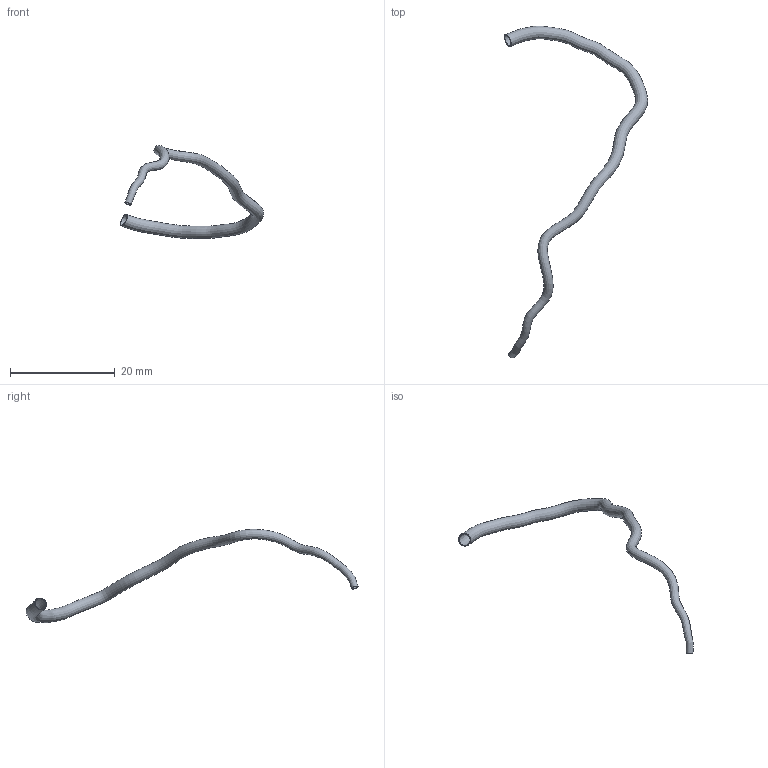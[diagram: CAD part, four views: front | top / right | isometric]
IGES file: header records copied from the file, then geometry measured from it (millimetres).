
Global section: file name: C:\Documents and Settings\Administrator\Desktop\FDA-Pig\Domestic RCA\Pig_000004\rca.seg.es.igs; native system: Rhinoceros ( May 19 2006 ); preprocessor: Trout Lake IGES 012 May 19 2006; date: 111205.185028; units: centimetre
Bounding box: 27.39 x 63.55 x 17.86 mm (x, y, z)
Surface area: 1193.8 mm2 (no closed solid volume)
Topology: 0 solids, 0 shells, 4 faces, 13 edges, 10 vertices
Faces by surface type: bspline 4
